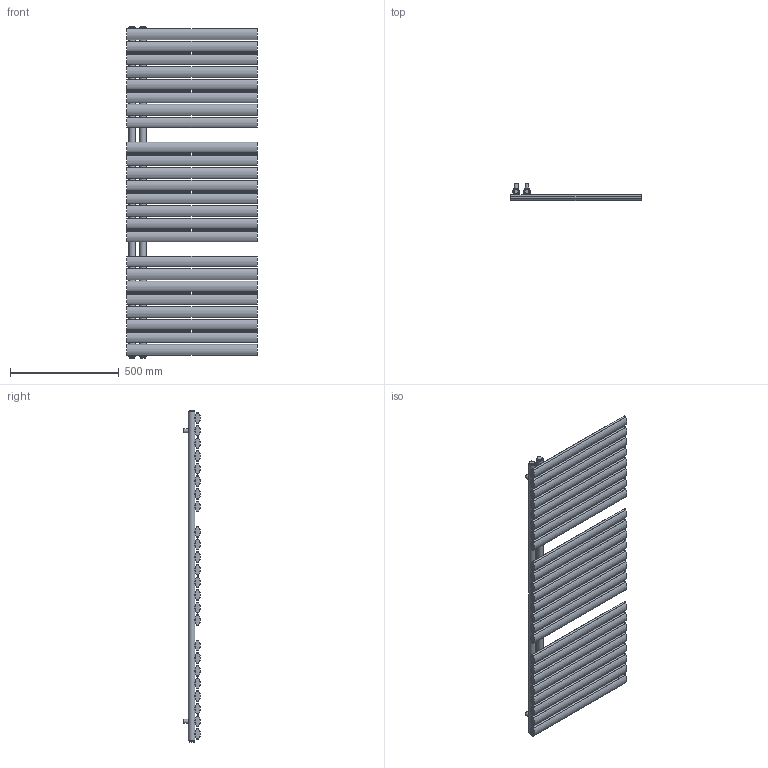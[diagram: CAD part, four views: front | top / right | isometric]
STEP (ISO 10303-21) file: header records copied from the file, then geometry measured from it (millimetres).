
FILE_DESCRIPTION(/* description */ (''),/* implementation_level */ '2;1');
FILE_NAME(/* name */ 'C:\Grzejniki\13DLUXRAD\łazienkowe\FLAG BIS\FLAG BIS 1512x600.iam.stp',/* time_stamp */ '2016-06-28T17:34:52+02:00',/* author */ ('m.szydziak'),/* organization */ (''),/* preprocessor_version */ 'ST-DEVELOPER v16.5',/* originating_system */ 'Autodesk Inventor 2017',/* authorisation */ '');
FILE_SCHEMA (('AUTOMOTIVE_DESIGN { 1 0 10303 214 3 1 1 }'));
Length unit declared in the file: millimetre
Products named in the file (6): FLAG BIS 1512x600; fi30x1,5x1512; 50x25x1,2x600; uchwyt stały; zaślepka fi30 G0,5inch; korek
Assembly tree (38 placements, depth 2):
  FLAG BIS 1512x600
    fi30x1,5x1512  x2
    50x25x1,2x600  x24
    uchwyt stały  x4
    zaślepka fi30 G0,5inch  x4
    korek  x4
Bounding box: 600 x 76.86 x 1524 mm (x, y, z)
Volume: 2486108.1 mm3; surface area: 3998531.7 mm2
Topology: 38 solids, 38 shells, 484 faces, 1276 edges, 916 vertices
Faces by surface type: cylinder 312, plane 172
Full cylindrical faces by diameter (mm): 5 x48, 6 x48, 15 x4, 18 x4, 18.631 x4, 24 x4, 27 x6, 30 x2
Entity records: 4126 total; most frequent: CARTESIAN_POINT 2159, DIRECTION 332, ORIENTED_EDGE 302, EDGE_LOOP 156, EDGE_CURVE 151, AXIS2_PLACEMENT_3D 150, VERTEX_POINT 131, FACE_BOUND 91
